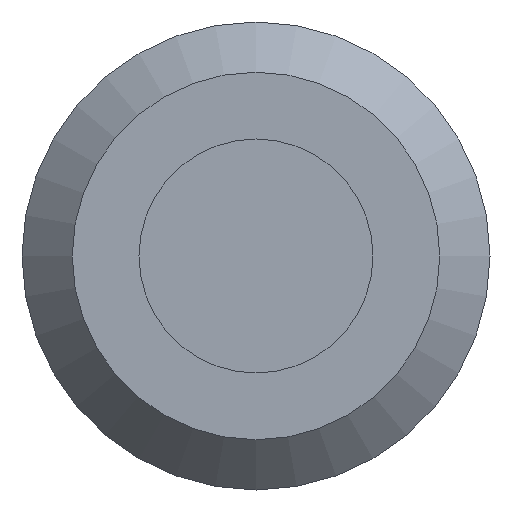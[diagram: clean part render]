
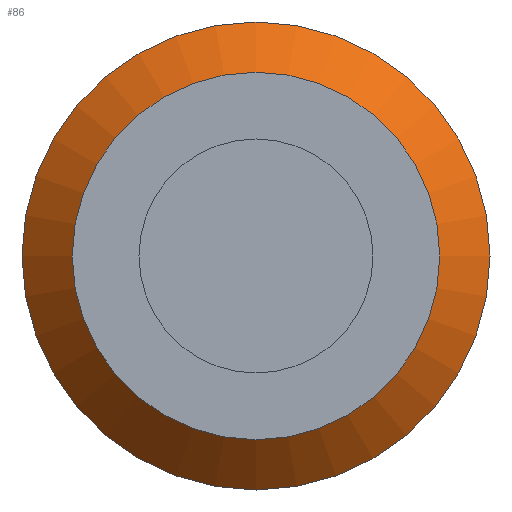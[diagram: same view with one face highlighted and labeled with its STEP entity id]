
A CAD part, front view. The second image highlights one B-rep face of the part: STEP entity #86.
In plain terms, the highlighted conical face has half-angle 45 degrees and reference radius 2 mm.
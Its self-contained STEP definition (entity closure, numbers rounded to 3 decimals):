
#86 = ADVANCED_FACE( '', ( #115, #116 ), #117, .T. );
#115 = FACE_BOUND( '', #149, .T. );
#116 = FACE_OUTER_BOUND( '', #150, .T. );
#117 = CONICAL_SURFACE( '', #151, 2., 0.785 );
#149 = EDGE_LOOP( '', ( #233 ) );
#150 = EDGE_LOOP( '', ( #234 ) );
#151 = AXIS2_PLACEMENT_3D( '', #235, #236, #237 );
#233 = ORIENTED_EDGE( '', *, *, #269, .F. );
#234 = ORIENTED_EDGE( '', *, *, #270, .T. );
#235 = CARTESIAN_POINT( '', ( 0., 1.43, 0. ) );
#236 = DIRECTION( '', ( 0., 1., 0. ) );
#237 = DIRECTION( '', ( 0., 0., 1. ) );
#269 = EDGE_CURVE( '', #308, #308, #309, .T. );
#270 = EDGE_CURVE( '', #310, #310, #311, .T. );
#308 = VERTEX_POINT( '', #368 );
#309 = CIRCLE( '', #369, 1.571 );
#310 = VERTEX_POINT( '', #370 );
#311 = CIRCLE( '', #371, 2. );
#368 = CARTESIAN_POINT( '', ( 0., 1., -1.571 ) );
#369 = AXIS2_PLACEMENT_3D( '', #401, #402, #403 );
#370 = CARTESIAN_POINT( '', ( 0., 1.43, -2. ) );
#371 = AXIS2_PLACEMENT_3D( '', #404, #405, #406 );
#401 = CARTESIAN_POINT( '', ( 0., 1., 0. ) );
#402 = DIRECTION( '', ( 0., -1., 0. ) );
#403 = DIRECTION( '', ( 0., 0., -1. ) );
#404 = CARTESIAN_POINT( '', ( 0., 1.43, 0. ) );
#405 = DIRECTION( '', ( 0., -1., 0. ) );
#406 = DIRECTION( '', ( 0., 0., -1. ) );
